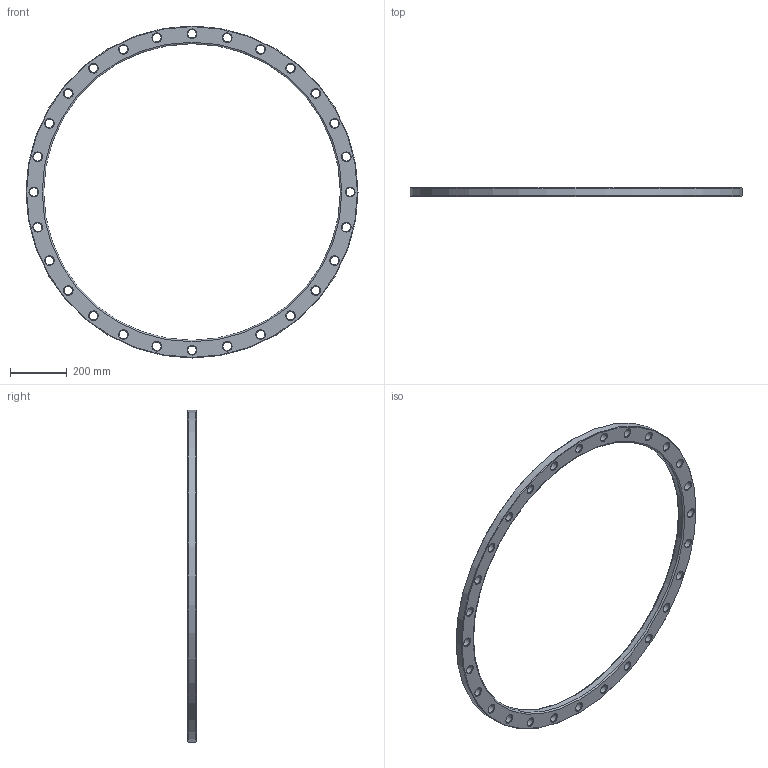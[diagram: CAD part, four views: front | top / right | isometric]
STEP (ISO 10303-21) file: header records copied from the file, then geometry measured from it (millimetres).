
FILE_DESCRIPTION(/* description */ ('Unknown'),/* implementation_level */ '2;1');
FILE_NAME(/* name */ 'FZ1000A',/* time_stamp */ '2021-03-15T09:33:10+01:00',/* author */ ('Unknown'),/* organization */ ('Unknown'),/* preprocessor_version */ 'ST-DEVELOPER v16.7',/* originating_system */ 'Solid Edge',/* authorisation */ 'Unknown');
FILE_SCHEMA (('AUTOMOTIVE_DESIGN {1 0 10303 214 3 1 1}'));
Length unit declared in the file: millimetre
Products named in the file (1): FZ1000A
Bounding box: 1175 x 30 x 1175 mm (x, y, z)
Volume: 5898160.9 mm3; surface area: 657475.6 mm2
Topology: 1 solids, 1 shells, 92 faces, 294 edges, 204 vertices
Faces by surface type: cone 58, cylinder 30, plane 2, torus 2
Full cylindrical faces by diameter (mm): 30 x28, 1050 x1, 1175 x1
Entity records: 2270 total; most frequent: DIRECTION 426, CARTESIAN_POINT 333, ORIENTED_EDGE 240, EDGE_LOOP 240, FACE_BOUND 240, AXIS2_PLACEMENT_3D 213, EDGE_CURVE 120, VERTEX_POINT 120
